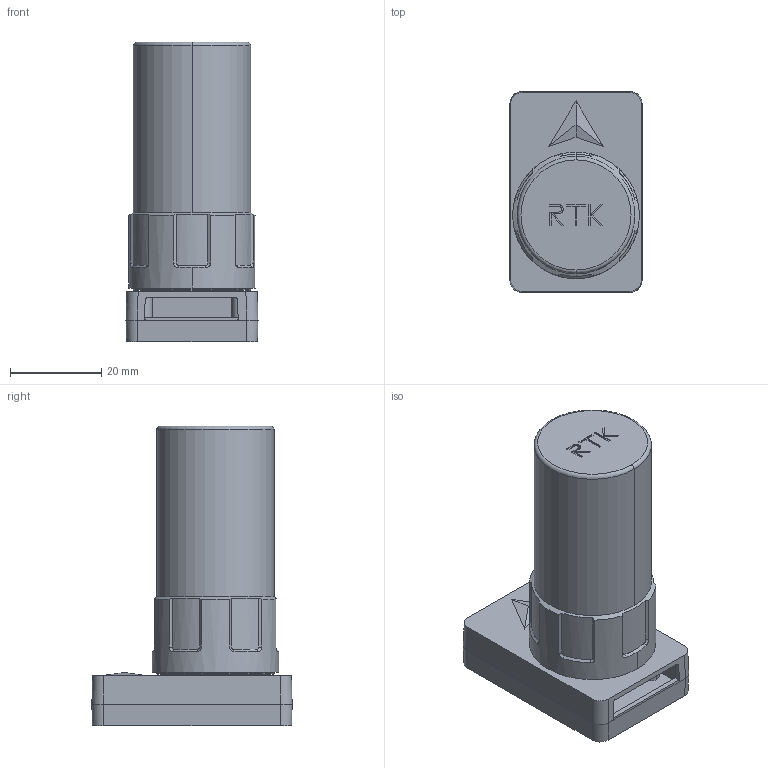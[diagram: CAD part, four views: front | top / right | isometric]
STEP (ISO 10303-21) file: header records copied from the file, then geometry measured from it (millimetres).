
FILE_DESCRIPTION (( 'STEP AP214' ), '1' );
FILE_NAME ('F10-蛁呿耀倰.STEP', '2026-06-02T13:23:49', ( '' ), ( '' ), 'SwSTEP 2.0', 'SolidWorks 2024', '' );
FILE_SCHEMA (( 'AUTOMOTIVE_DESIGN' ));
Length unit declared in the file: millimetre
Products named in the file (4): F10-注塑模型; M2 1; 2; GNSS _RTK_Antenna_Standard
Assembly tree (3 placements, depth 2):
  F10-注塑模型
    2
    M2 1
    GNSS _RTK_Antenna_Standard
Bounding box: 29 x 44 x 65.8 mm (x, y, z)
Volume: 33937.6 mm3; surface area: 15133.4 mm2
Topology: 36 solids, 36 shells, 606 faces, 1495 edges, 981 vertices
Faces by surface type: plane 332, bspline 129, cylinder 75, cone 62, torus 8
Entity records: 27790 total; most frequent: CARTESIAN_POINT 12175, ORIENTED_EDGE 2990, DIRECTION 2375, EDGE_CURVE 1495, VERTEX_POINT 981, LINE 929, VECTOR 929, AXIS2_PLACEMENT_3D 723
